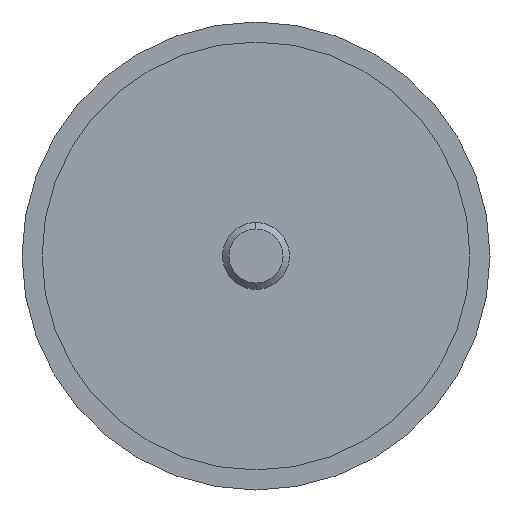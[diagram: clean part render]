
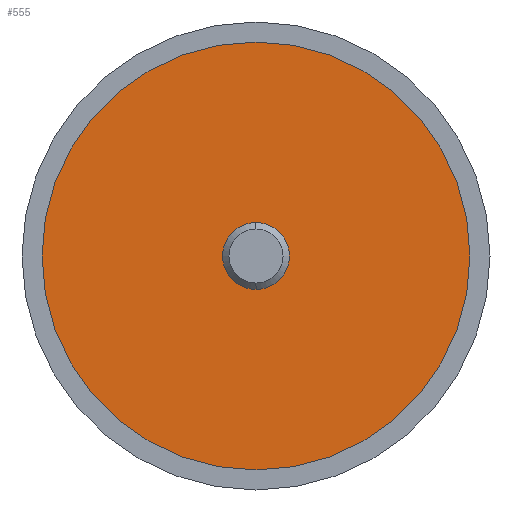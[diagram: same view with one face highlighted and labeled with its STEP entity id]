
A CAD part, left-side view. The second image highlights one B-rep face of the part: STEP entity #555.
In plain terms, the highlighted planar face has unit normal (-1, 0, 0).
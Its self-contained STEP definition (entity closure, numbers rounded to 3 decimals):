
#5 = VERTEX_POINT ( 'NONE', #656 ) ;
#14 = AXIS2_PLACEMENT_3D ( 'NONE', #303, #630, #459 ) ;
#25 = ORIENTED_EDGE ( 'NONE', *, *, #411, .T. ) ;
#36 = AXIS2_PLACEMENT_3D ( 'NONE', #146, #678, #573 ) ;
#48 = CARTESIAN_POINT ( 'NONE',  ( -17.49, 0., -32. ) ) ;
#76 = ORIENTED_EDGE ( 'NONE', *, *, #315, .F. ) ;
#108 = CIRCLE ( 'NONE', #670, 32. ) ;
#141 = DIRECTION ( 'NONE',  ( 0., 0., 1. ) ) ;
#146 = CARTESIAN_POINT ( 'NONE',  ( -17.49, 32., 0. ) ) ;
#152 = EDGE_LOOP ( 'NONE', ( #76, #597 ) ) ;
#192 = DIRECTION ( 'NONE',  ( 0., 0., -1. ) ) ;
#232 = CIRCLE ( 'NONE', #14, 5. ) ;
#250 = FACE_BOUND ( 'NONE', #152, .T. ) ;
#279 = VERTEX_POINT ( 'NONE', #48 ) ;
#293 = EDGE_CURVE ( 'NONE', #410, #279, #108, .T. ) ;
#295 = DIRECTION ( 'NONE',  ( -1., 0., 0. ) ) ;
#302 = PLANE ( 'NONE',  #36 ) ;
#303 = CARTESIAN_POINT ( 'NONE',  ( -17.49, 0., 0. ) ) ;
#315 = EDGE_CURVE ( 'NONE', #564, #5, #232, .T. ) ;
#322 = AXIS2_PLACEMENT_3D ( 'NONE', #596, #446, #192 ) ;
#331 = CARTESIAN_POINT ( 'NONE',  ( -17.49, 0., 32. ) ) ;
#337 = CIRCLE ( 'NONE', #535, 32. ) ;
#357 = CARTESIAN_POINT ( 'NONE',  ( -17.49, 0., 0. ) ) ;
#407 = EDGE_LOOP ( 'NONE', ( #620, #25 ) ) ;
#410 = VERTEX_POINT ( 'NONE', #331 ) ;
#411 = EDGE_CURVE ( 'NONE', #279, #410, #337, .T. ) ;
#440 = EDGE_CURVE ( 'NONE', #5, #564, #625, .T. ) ;
#442 = CARTESIAN_POINT ( 'NONE',  ( -17.49, 0., 0. ) ) ;
#446 = DIRECTION ( 'NONE',  ( -1., 0., 0. ) ) ;
#459 = DIRECTION ( 'NONE',  ( 0., 0., -1. ) ) ;
#466 = DIRECTION ( 'NONE',  ( 0., 0., 1. ) ) ;
#509 = CARTESIAN_POINT ( 'NONE',  ( -17.49, 0., 5. ) ) ;
#535 = AXIS2_PLACEMENT_3D ( 'NONE', #442, #657, #141 ) ;
#555 = ADVANCED_FACE ( 'NONE', ( #615, #250 ), #302, .F. ) ;
#564 = VERTEX_POINT ( 'NONE', #509 ) ;
#573 = DIRECTION ( 'NONE',  ( 0., 0., -1. ) ) ;
#596 = CARTESIAN_POINT ( 'NONE',  ( -17.49, 0., 0. ) ) ;
#597 = ORIENTED_EDGE ( 'NONE', *, *, #440, .F. ) ;
#615 = FACE_OUTER_BOUND ( 'NONE', #407, .T. ) ;
#620 = ORIENTED_EDGE ( 'NONE', *, *, #293, .T. ) ;
#625 = CIRCLE ( 'NONE', #322, 5. ) ;
#630 = DIRECTION ( 'NONE',  ( -1., 0., 0. ) ) ;
#656 = CARTESIAN_POINT ( 'NONE',  ( -17.49, 0., -5. ) ) ;
#657 = DIRECTION ( 'NONE',  ( -1., 0., 0. ) ) ;
#670 = AXIS2_PLACEMENT_3D ( 'NONE', #357, #295, #466 ) ;
#678 = DIRECTION ( 'NONE',  ( 1., 0., 0. ) ) ;
